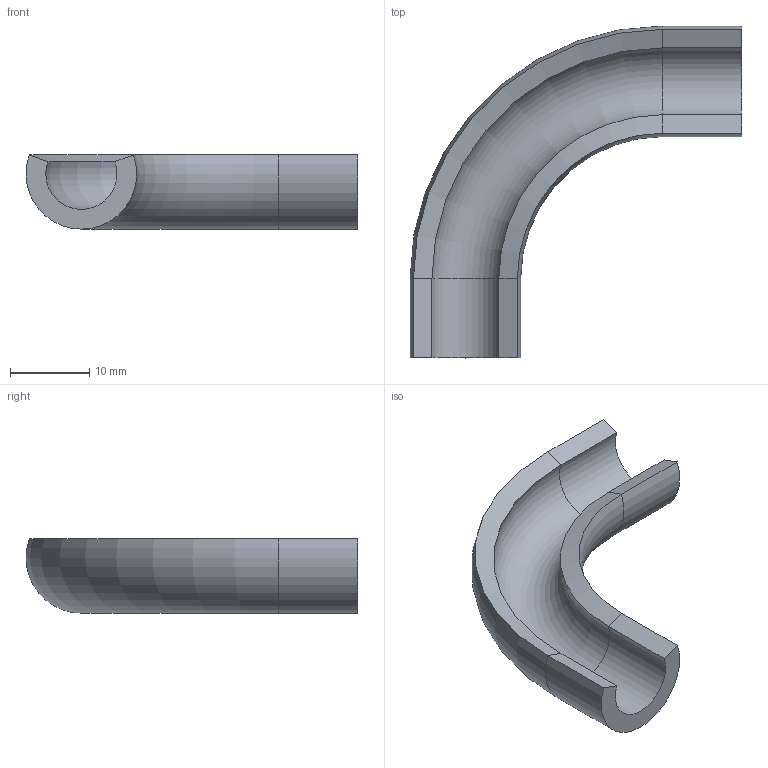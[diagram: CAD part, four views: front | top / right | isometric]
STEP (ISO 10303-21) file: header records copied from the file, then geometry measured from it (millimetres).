
FILE_DESCRIPTION(/* description */ ('STEP AP242 Edition 2','CAx-IF Rec.Pracs.---Representation and Presentation of Product Manufacturing Information (PMI)---4.0---2014-10-13','CAx-IF Rec.Pracs.---3D Tessellated Geometry---0.4---2014-09-14','2;1','CAx-IF Rec.Pracs.---User Defined Attributes---1.5---2016-08-15'),/* implementation_level */ '2;1');
FILE_NAME(/* name */ 'Assembly 1 - Part 9',/* time_stamp */ '2026-10-18T18:48:31Z',/* author */ (''),/* organization */ (''),/* preprocessor_version */ 'ST-DEVELOPER v20',/* originating_system */ 'ONSHAPE BY PTC INC, 1.222',/* authorisation */ ' ');
FILE_SCHEMA (('AP242_MANAGED_MODEL_BASED_3D_ENGINEERING_MIM_LF { 1 0 10303 442 3 1 4 }'));
Length unit declared in the file: metre
Products named in the file (1): Part 9
Bounding box: 42 x 42 x 9.39 mm (x, y, z)
Volume: 3271.5 mm3; surface area: 3023.9 mm2
Topology: 1 solids, 1 shells, 14 faces, 28 edges, 16 vertices
Faces by surface type: plane 6, cylinder 4, torus 2, cone 2
Entity records: 382 total; most frequent: DIRECTION 70, CARTESIAN_POINT 59, ORIENTED_EDGE 56, EDGE_CURVE 28, AXIS2_PLACEMENT_3D 27, LINE 16, VECTOR 16, VERTEX_POINT 16
